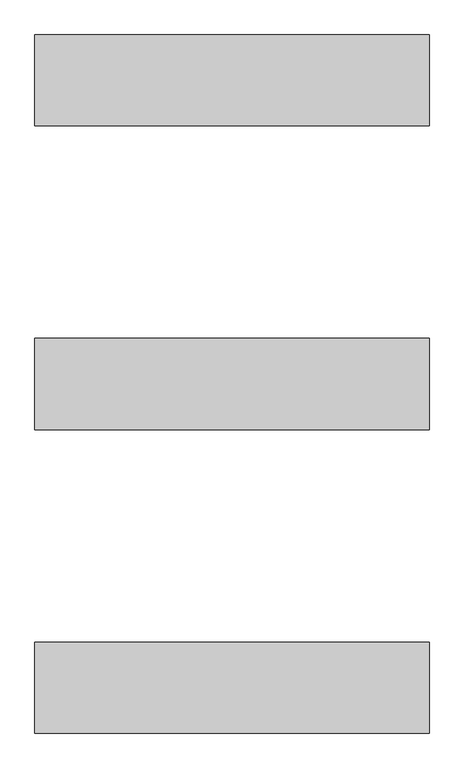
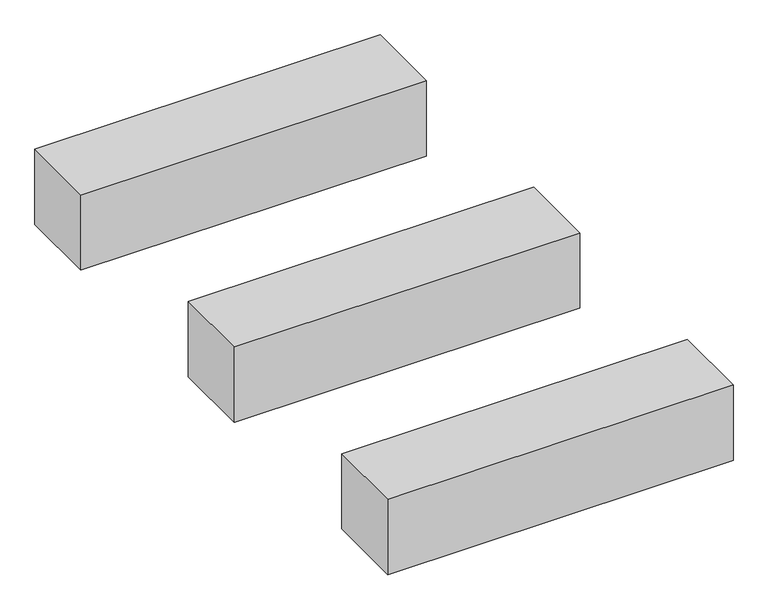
"""IFC4 building model written with IfcOpenShell, lengths in millimetres: proxy geometry, 機械基礎_下駄(衛生) : 機械基礎_下駄(衛生)."""

from ifc_helpers import new_model, si_unit, origin, origin_with_axes, place, context, project, spatial, polyline, outline, extrude, source, transform, mapped, element, save


def specialty_equipment_7916e3ce(model_context):
    return source(origin(), model_context, "Body", "SweptSolid", [
        extrude(outline(polyline([(1300.0, 1300.0), (1300.0, 700.0), (-1300.0, 700.0), (-1300.0, 1300.0), (1300.0, 1300.0)])), origin_with_axes(), (0.0, 0.0, 1.0), 600.0),
        extrude(outline(polyline([(1300.0, -700.0), (1300.0, -1300.0), (-1300.0, -1300.0), (-1300.0, -700.0), (1300.0, -700.0)])), origin_with_axes(), (0.0, 0.0, 1.0), 600.0),
        extrude(outline(polyline([(1300.0, 3300.0), (1300.0, 2700.0), (-1300.0, 2700.0), (-1300.0, 3300.0), (1300.0, 3300.0)])), origin_with_axes(), (0.0, 0.0, 1.0), 600.0),
    ])


if __name__ == "__main__":
    model = new_model("IFC4")
    model_context = context("Model", 3, world=origin())
    ifc_project = project(units=[si_unit("LENGTHUNIT", "METRE", prefix="MILLI")], contexts=[model_context])
    site = spatial("IfcSite", under=ifc_project)
    building = spatial("IfcBuilding", under=site)
    placement = place(None, origin())
    specialty_equipment_shape = specialty_equipment_7916e3ce(model_context)
    element("IfcBuildingElementProxy", 1, Name="機械基礎_下駄(衛生) : 機械基礎_下駄(衛生)", ObjectType="機械基礎_下駄(衛生) : 機械基礎_下駄(衛生)", at=placement, inside=building, context=model_context, shape_type="MappedRepresentation", body=[
        mapped(specialty_equipment_shape, transform((0.0, 0.0, 0.0), x_axis=(1.0, 0.0, 0.0), y_axis=(0.0, 1.0, 0.0), z_axis=(0.0, 0.0, 1.0))),
    ])
    save(model, "model.ifc")
